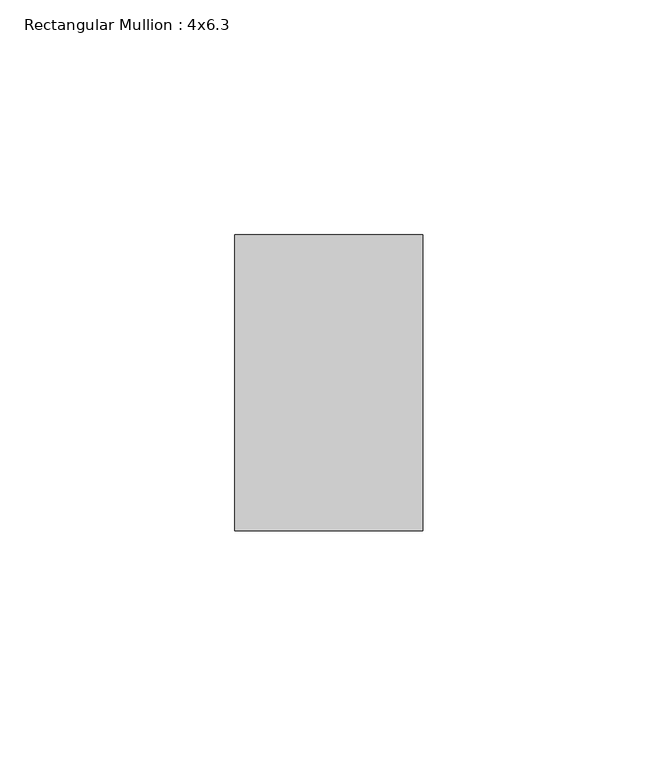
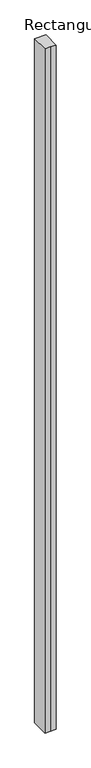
"""IFC4 building model written with IfcOpenShell, lengths in millimetres: member geometry, Rectangular Mullion : 4x6.3."""

from ifc_helpers import new_model, si_unit, frame, origin, place, context, project, spatial, polyline, outline, extrude, source, transform, mapped, element, save


def rectangular_mullion_4x6_3_ac8d314e(model_context):
    return source(origin(), model_context, "Body", "SweptSolid", [
        extrude(outline(polyline([(-20.0, 20.0), (-20.0, 83.0), (20.0, 83.0), (20.0, 20.0), (0.0, 20.0), (-20.0, 20.0)])), frame((0.0, 0.0, -2564.7277136), z_axis=(0.0, 0.0, 1.0), x_axis=(1.0, 0.0, 0.0)), (0.0, 0.0, 1.0), 2564.7277136),
    ])


if __name__ == "__main__":
    model = new_model("IFC4")
    model_context = context("Model", 3, world=origin())
    ifc_project = project(units=[si_unit("LENGTHUNIT", "METRE", prefix="MILLI")], contexts=[model_context])
    site = spatial("IfcSite", under=ifc_project)
    building = spatial("IfcBuilding", under=site)
    placement = place(None, origin())
    rectangular_mullion_4x6_3_shape = rectangular_mullion_4x6_3_ac8d314e(model_context)
    element("IfcMember", 1, ObjectType="Rectangular Mullion : 4x6.3", at=placement, inside=building, context=model_context, shape_type="MappedRepresentation", body=[
        mapped(rectangular_mullion_4x6_3_shape, transform((0.0, 0.0, 0.0), x_axis=(1.0, 0.0, 0.0), y_axis=(0.0, 1.0, 0.0), z_axis=(0.0, 0.0, 1.0))),
    ])
    save(model, "model.ifc")
